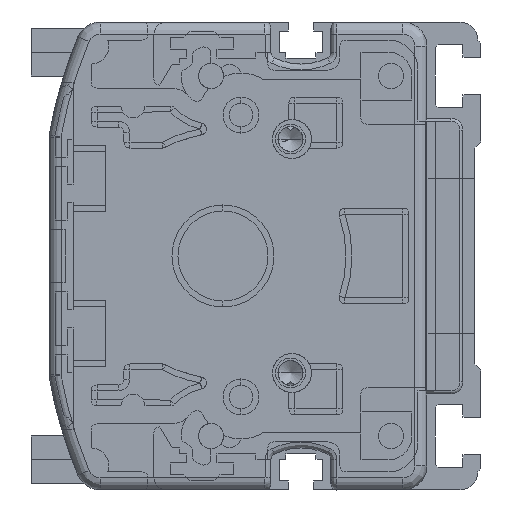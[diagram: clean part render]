
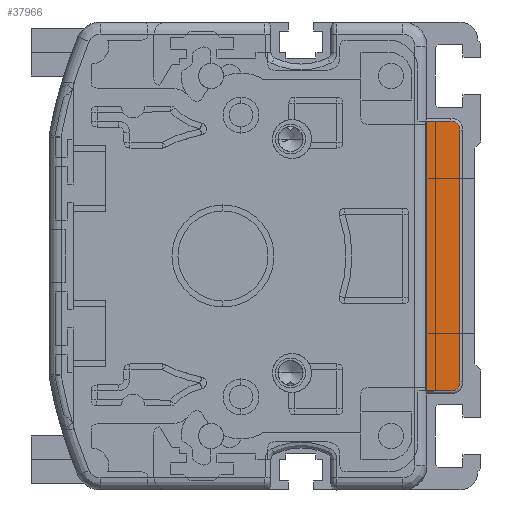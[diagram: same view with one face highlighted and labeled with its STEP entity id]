
A CAD part, left-side view. The second image highlights one B-rep face of the part: STEP entity #37966.
In plain terms, the highlighted planar face has unit normal (-1, 0, 0).
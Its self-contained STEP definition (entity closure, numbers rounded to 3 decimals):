
#32537=DIRECTION('',(0.,0.,-1.));
#32538=VECTOR('',#32537,45.);
#32539=CARTESIAN_POINT('',(-2.,9.268,22.5));
#32540=LINE('',#32539,#32538);
#32572=CARTESIAN_POINT('',(-2.,5.,21.));
#32573=DIRECTION('',(1.,0.,0.));
#32574=DIRECTION('',(0.,0.,1.));
#32575=AXIS2_PLACEMENT_3D('',#32572,#32573,#32574);
#32577=CARTESIAN_POINT('',(-2.,5.,-21.));
#32578=DIRECTION('',(1.,0.,0.));
#32579=DIRECTION('',(0.,-1.,0.));
#32580=AXIS2_PLACEMENT_3D('',#32577,#32578,#32579);
#32586=DIRECTION('',(0.,-1.,0.));
#32587=VECTOR('',#32586,4.268);
#32588=CARTESIAN_POINT('',(-2.,9.268,-22.5));
#32589=LINE('',#32588,#32587);
#33106=DIRECTION('',(0.,0.,1.));
#33107=VECTOR('',#33106,42.);
#33108=CARTESIAN_POINT('',(-2.,3.5,-21.));
#33109=LINE('',#33108,#33107);
#33129=DIRECTION('',(0.,1.,0.));
#33130=VECTOR('',#33129,4.268);
#33131=CARTESIAN_POINT('',(-2.,5.,22.5));
#33132=LINE('',#33131,#33130);
#36413=CARTESIAN_POINT('',(-2.,9.268,22.5));
#36414=CARTESIAN_POINT('',(-2.,9.268,-22.5));
#36415=VERTEX_POINT('',#36413);
#36416=VERTEX_POINT('',#36414);
#36426=CARTESIAN_POINT('',(-2.,5.,-22.5));
#36427=VERTEX_POINT('',#36426);
#36428=CARTESIAN_POINT('',(-2.,3.5,-21.));
#36429=VERTEX_POINT('',#36428);
#36430=CARTESIAN_POINT('',(-2.,3.5,21.));
#36431=VERTEX_POINT('',#36430);
#36432=CARTESIAN_POINT('',(-2.,5.,22.5));
#36433=VERTEX_POINT('',#36432);
#37948=CARTESIAN_POINT('',(-2.,6.384,0.));
#37949=DIRECTION('',(1.,0.,0.));
#37950=DIRECTION('',(0.,0.,-1.));
#37951=AXIS2_PLACEMENT_3D('',#37948,#37949,#37950);
#37952=PLANE('',#37951);
#37954=ORIENTED_EDGE('',*,*,#37953,.F.);
#37955=ORIENTED_EDGE('',*,*,#37927,.F.);
#37957=ORIENTED_EDGE('',*,*,#37956,.F.);
#37959=ORIENTED_EDGE('',*,*,#37958,.T.);
#37961=ORIENTED_EDGE('',*,*,#37960,.F.);
#37963=ORIENTED_EDGE('',*,*,#37962,.T.);
#37964=EDGE_LOOP('',(#37954,#37955,#37957,#37959,#37961,#37963));
#37965=FACE_OUTER_BOUND('',#37964,.F.);
#37966=ADVANCED_FACE('',(#37965),#37952,.F.);
#32576=CIRCLE('',#32575,1.5);
#32581=CIRCLE('',#32580,1.5);
#37927=EDGE_CURVE('',#36415,#36416,#32540,.T.);
#37953=EDGE_CURVE('',#36416,#36427,#32589,.T.);
#37956=EDGE_CURVE('',#36433,#36415,#33132,.T.);
#37958=EDGE_CURVE('',#36433,#36431,#32576,.T.);
#37960=EDGE_CURVE('',#36429,#36431,#33109,.T.);
#37962=EDGE_CURVE('',#36429,#36427,#32581,.T.);
